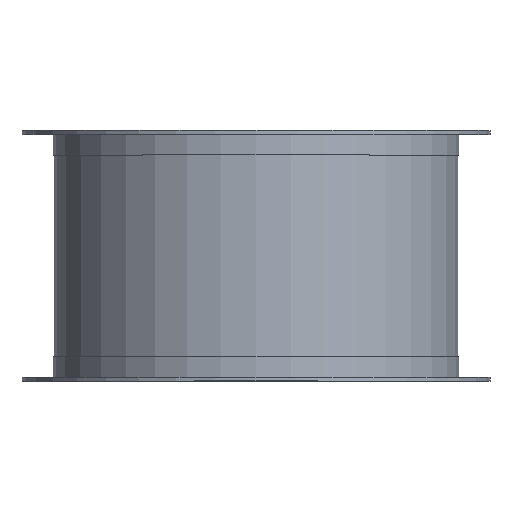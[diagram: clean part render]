
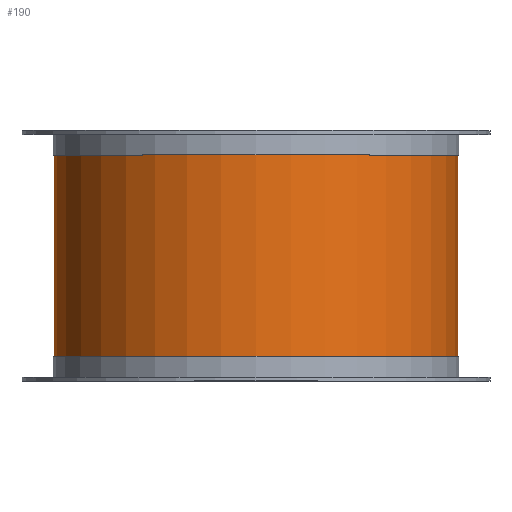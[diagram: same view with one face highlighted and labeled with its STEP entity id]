
A CAD part, top view. The second image highlights one B-rep face of the part: STEP entity #190.
In plain terms, the highlighted cylindrical face has radius 204.5 mm (diameter 409 mm), a partial arc.
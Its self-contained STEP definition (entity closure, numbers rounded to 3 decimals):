
#190=ADVANCED_FACE('',(#414),#415,.T.);
#414=FACE_OUTER_BOUND('',#629,.T.);
#415=CYLINDRICAL_SURFACE('',#630,204.5);
#629=EDGE_LOOP('',(#1137,#1138,#1139,#1140));
#630=AXIS2_PLACEMENT_3D('',#1141,#1142,#1143);
#1137=ORIENTED_EDGE('',*,*,#1145,.T.);
#1138=ORIENTED_EDGE('',*,*,#1302,.T.);
#1139=ORIENTED_EDGE('',*,*,#1147,.T.);
#1140=ORIENTED_EDGE('',*,*,#1341,.T.);
#1141=CARTESIAN_POINT('',(0.0,127.0,0.0));
#1142=DIRECTION('',(-0.0,1.0,0.0));
#1143=DIRECTION('',(1.0,0.0,0.0));
#1145=EDGE_CURVE('',#1345,#1346,#1347,.T.);
#1147=EDGE_CURVE('',#1350,#1348,#1351,.T.);
#1302=EDGE_CURVE('',#1346,#1350,#1598,.T.);
#1341=EDGE_CURVE('',#1348,#1345,#1637,.T.);
#1345=VERTEX_POINT('',#1641);
#1346=VERTEX_POINT('',#1642);
#1347=LINE('',#1643,#1644);
#1348=VERTEX_POINT('',#1645);
#1350=VERTEX_POINT('',#1647);
#1351=LINE('',#1648,#1649);
#1598=CIRCLE('',#1942,204.5);
#1637=CIRCLE('',#1981,204.5);
#1641=CARTESIAN_POINT('',(204.5,25.0,0.));
#1642=CARTESIAN_POINT('',(204.5,229.0,0.));
#1643=CARTESIAN_POINT('',(204.5,127.0,0.));
#1644=VECTOR('',#1984,1.0);
#1645=CARTESIAN_POINT('',(-204.5,25.0,0.));
#1647=CARTESIAN_POINT('',(-204.5,229.0,0.));
#1648=CARTESIAN_POINT('',(-204.5,127.0,0.));
#1649=VECTOR('',#1988,1.0);
#1942=AXIS2_PLACEMENT_3D('',#2245,#2246,#2247);
#1981=AXIS2_PLACEMENT_3D('',#2317,#2318,#2319);
#1984=DIRECTION('',(0.0,1.0,0.0));
#1988=DIRECTION('',(-0.0,-1.0,-0.0));
#2245=CARTESIAN_POINT('',(0.0,229.0,0.0));
#2246=DIRECTION('',(0.0,-1.0,0.));
#2247=DIRECTION('',(1.0,0.0,0.0));
#2317=CARTESIAN_POINT('',(0.0,25.0,0.0));
#2318=DIRECTION('',(-0.0,1.0,0.0));
#2319=DIRECTION('',(1.0,0.0,0.0));
